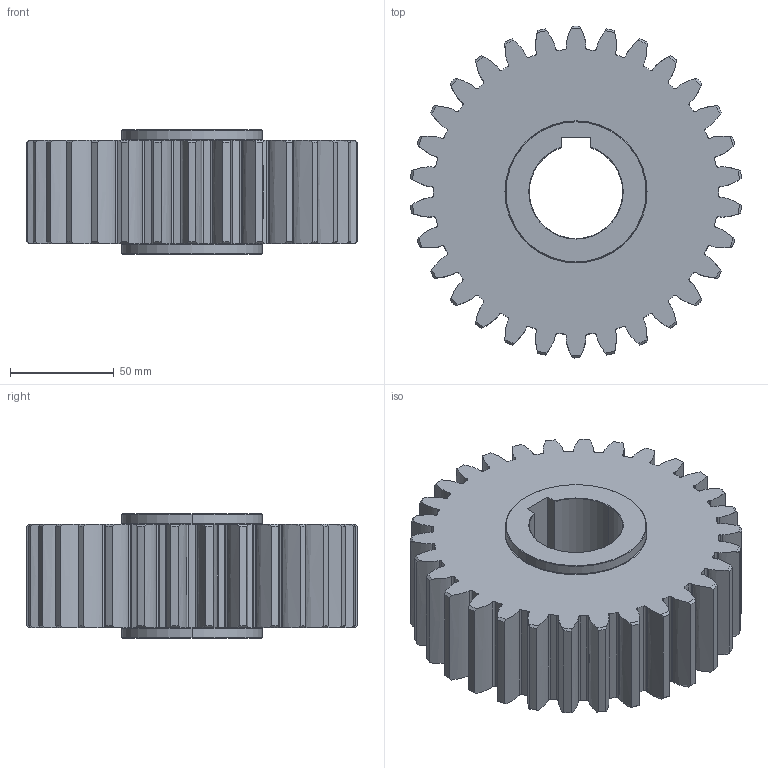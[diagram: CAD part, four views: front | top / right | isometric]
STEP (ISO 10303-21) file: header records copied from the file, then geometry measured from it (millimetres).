
FILE_DESCRIPTION (( 'STEP AP214' ), '1' );
FILE_NAME ('1SG__S050030S.STEP', '2021-08-03T07:54:09', ( '' ), ( '' ), 'SwSTEP 2.0', 'SolidWorks 2021', '' );
FILE_SCHEMA (( 'AUTOMOTIVE_DESIGN' ));
Length unit declared in the file: millimetre
Products named in the file (1): 1SG__S050030S
Bounding box: 159.47 x 160 x 60 mm (x, y, z)
Volume: 809226 mm3; surface area: 90132.1 mm2
Topology: 1 solids, 1 shells, 314 faces, 978 edges, 668 vertices
Faces by surface type: cylinder 113, bspline 90, cone 70, plane 37, torus 4
Entity records: 20412 total; most frequent: CARTESIAN_POINT 12023, ORIENTED_EDGE 1956, DIRECTION 1548, EDGE_CURVE 978, VERTEX_POINT 668, AXIS2_PLACEMENT_3D 589, VECTOR 370, LINE 370
